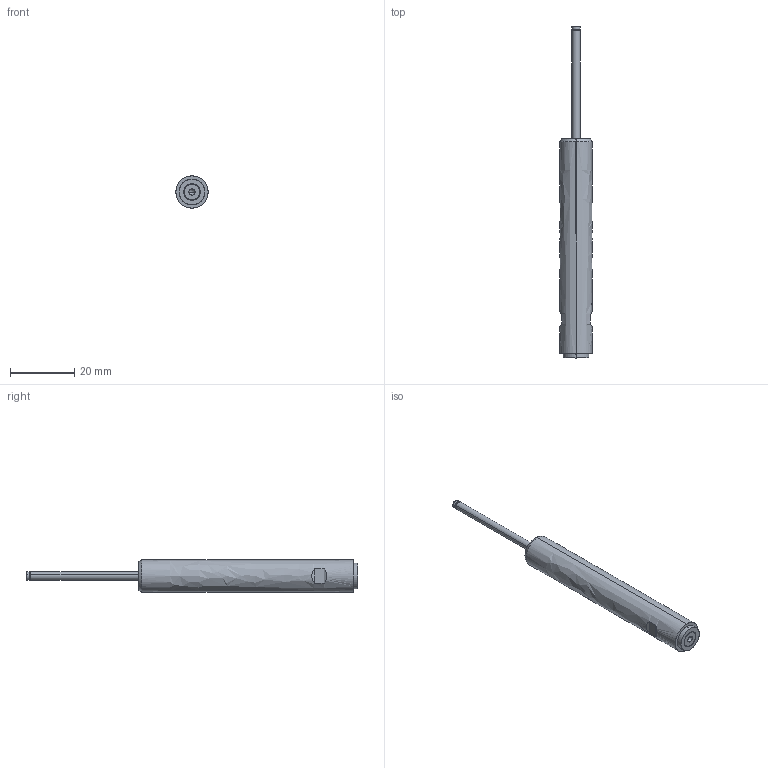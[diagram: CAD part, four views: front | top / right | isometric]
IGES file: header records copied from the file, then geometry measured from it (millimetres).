
Start section: SolidWorks IGES file using analytic representation for surfaces
Bounding box: 10 x 103.1 x 10 mm (x, y, z)
Surface area: 2784.6 mm2 (no closed solid volume)
Topology: 0 solids, 0 shells, 73 faces, 886 edges, 884 vertices
Faces by surface type: bspline 44, revolution 29
